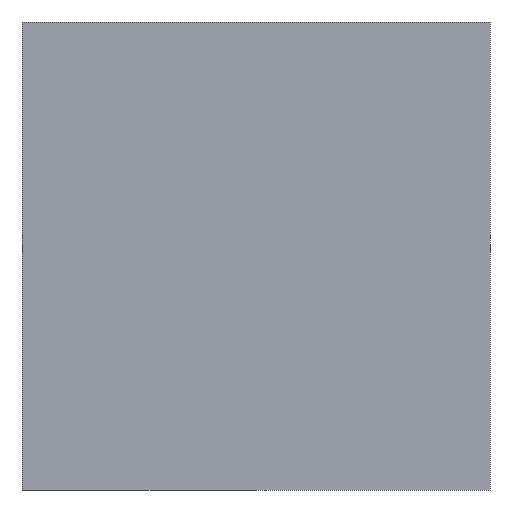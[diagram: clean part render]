
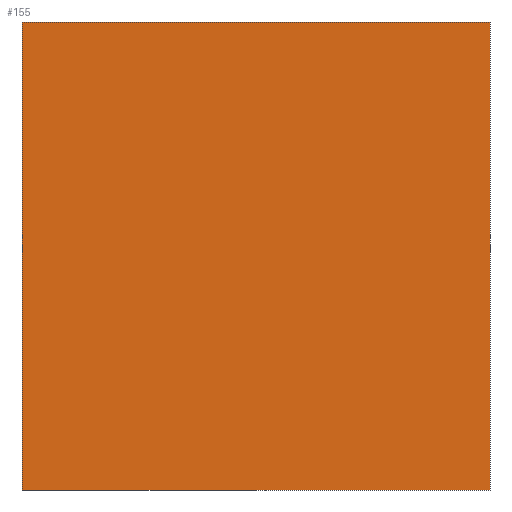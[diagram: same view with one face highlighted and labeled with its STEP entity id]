
A CAD part, left-side view. The second image highlights one B-rep face of the part: STEP entity #155.
In plain terms, the highlighted planar face has unit normal (-1, 0, 0).
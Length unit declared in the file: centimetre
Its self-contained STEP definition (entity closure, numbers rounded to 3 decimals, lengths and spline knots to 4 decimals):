
#6 = FACE_OUTER_BOUND ( 'NONE', #380, .T. ) ;
#18 = ORIENTED_EDGE ( 'NONE', *, *, #370, .F. ) ;
#37 = EDGE_CURVE ( 'NONE', #264, #271, #325, .T. ) ;
#40 = DIRECTION ( 'NONE',  ( 0., 0., -1. ) ) ;
#42 = CARTESIAN_POINT ( 'NONE',  ( 0., 0., 1000. ) ) ;
#66 = DIRECTION ( 'NONE',  ( 0., 0., -1. ) ) ;
#79 = EDGE_CURVE ( 'NONE', #271, #91, #221, .T. ) ;
#84 = DIRECTION ( 'NONE',  ( 0., 0., -1. ) ) ;
#88 = ORIENTED_EDGE ( 'NONE', *, *, #37, .T. ) ;
#91 = VERTEX_POINT ( 'NONE', #158 ) ;
#92 = VECTOR ( 'NONE', #40, 100. ) ;
#97 = CARTESIAN_POINT ( 'NONE',  ( 0., 1000., 1000. ) ) ;
#109 = CARTESIAN_POINT ( 'NONE',  ( 0., 1000., 1000. ) ) ;
#129 = DIRECTION ( 'NONE',  ( 1., 0., 0. ) ) ;
#146 = AXIS2_PLACEMENT_3D ( 'NONE', #97, #129, #66 ) ;
#155 = ADVANCED_FACE ( 'NONE', ( #6 ), #362, .F. ) ;
#158 = CARTESIAN_POINT ( 'NONE',  ( 0., 0., 0. ) ) ;
#162 = CARTESIAN_POINT ( 'NONE',  ( 0., 1000., 1000. ) ) ;
#172 = VECTOR ( 'NONE', #84, 100. ) ;
#183 = CARTESIAN_POINT ( 'NONE',  ( 0., 1000., 1000. ) ) ;
#194 = DIRECTION ( 'NONE',  ( 0., -1., 0. ) ) ;
#215 = ORIENTED_EDGE ( 'NONE', *, *, #260, .F. ) ;
#221 = LINE ( 'NONE', #254, #273 ) ;
#222 = LINE ( 'NONE', #42, #172 ) ;
#236 = VECTOR ( 'NONE', #194, 100. ) ;
#237 = VERTEX_POINT ( 'NONE', #376 ) ;
#254 = CARTESIAN_POINT ( 'NONE',  ( 0., 1000., 0. ) ) ;
#255 = DIRECTION ( 'NONE',  ( 0., -1., 0. ) ) ;
#260 = EDGE_CURVE ( 'NONE', #264, #237, #262, .T. ) ;
#262 = LINE ( 'NONE', #162, #236 ) ;
#264 = VERTEX_POINT ( 'NONE', #109 ) ;
#271 = VERTEX_POINT ( 'NONE', #314 ) ;
#273 = VECTOR ( 'NONE', #255, 100. ) ;
#314 = CARTESIAN_POINT ( 'NONE',  ( 0., 1000., 0. ) ) ;
#325 = LINE ( 'NONE', #183, #92 ) ;
#362 = PLANE ( 'NONE',  #146 ) ;
#370 = EDGE_CURVE ( 'NONE', #237, #91, #222, .T. ) ;
#376 = CARTESIAN_POINT ( 'NONE',  ( 0., 0., 1000. ) ) ;
#380 = EDGE_LOOP ( 'NONE', ( #381, #18, #215, #88 ) ) ;
#381 = ORIENTED_EDGE ( 'NONE', *, *, #79, .T. ) ;
